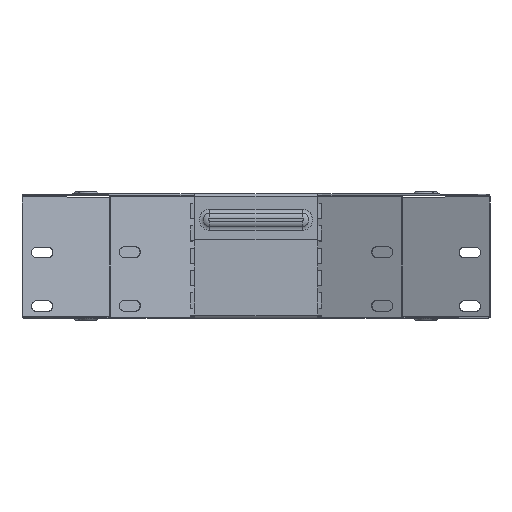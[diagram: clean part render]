
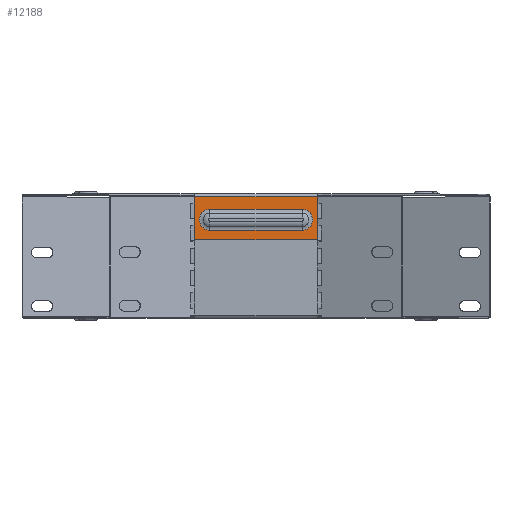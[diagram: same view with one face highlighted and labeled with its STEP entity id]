
A CAD part, top view. The second image highlights one B-rep face of the part: STEP entity #12188.
In plain terms, the highlighted planar face has unit normal (0, 0, 1).
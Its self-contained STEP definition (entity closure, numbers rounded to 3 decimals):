
#211 = LINE ( 'NONE', #14978, #9061 ) ;
#1177 = DIRECTION ( 'NONE',  ( 0., 1., 0. ) ) ;
#1270 = VERTEX_POINT ( 'NONE', #17111 ) ;
#1802 = CARTESIAN_POINT ( 'NONE',  ( 30., 63.9, 1.445 ) ) ;
#1857 = EDGE_CURVE ( 'NONE', #3468, #15231, #14465, .T. ) ;
#2338 = VERTEX_POINT ( 'NONE', #7886 ) ;
#2421 = ORIENTED_EDGE ( 'NONE', *, *, #3071, .F. ) ;
#2833 = VECTOR ( 'NONE', #8932, 1000. ) ;
#3071 = EDGE_CURVE ( 'NONE', #1270, #13548, #11936, .T. ) ;
#3121 = EDGE_LOOP ( 'NONE', ( #4055, #13582, #10454, #5166 ) ) ;
#3213 = EDGE_LOOP ( 'NONE', ( #2421, #16575, #6907, #9829 ) ) ;
#3468 = VERTEX_POINT ( 'NONE', #18614 ) ;
#4055 = ORIENTED_EDGE ( 'NONE', *, *, #6872, .T. ) ;
#4306 = VECTOR ( 'NONE', #16288, 1000. ) ;
#4471 = EDGE_CURVE ( 'NONE', #7742, #2338, #13277, .T. ) ;
#4659 = CARTESIAN_POINT ( 'NONE',  ( -40., 50.8, 1.445 ) ) ;
#4688 = CARTESIAN_POINT ( 'NONE',  ( 40., 50.8, 1.445 ) ) ;
#4806 = CARTESIAN_POINT ( 'NONE',  ( -30., 56.983, 1.445 ) ) ;
#5166 = ORIENTED_EDGE ( 'NONE', *, *, #4471, .T. ) ;
#5333 = VECTOR ( 'NONE', #6530, 1000. ) ;
#5407 = CARTESIAN_POINT ( 'NONE',  ( -30., 63.9, 1.445 ) ) ;
#5510 = AXIS2_PLACEMENT_3D ( 'NONE', #5407, #12642, #1177 ) ;
#5682 = FACE_BOUND ( 'NONE', #3121, .T. ) ;
#5905 = LINE ( 'NONE', #7625, #4306 ) ;
#6079 = DIRECTION ( 'NONE',  ( 0., 1., 0. ) ) ;
#6126 = DIRECTION ( 'NONE',  ( 0., 0., -1. ) ) ;
#6274 = DIRECTION ( 'NONE',  ( -1., 0., 0. ) ) ;
#6276 = VERTEX_POINT ( 'NONE', #4688 ) ;
#6323 = AXIS2_PLACEMENT_3D ( 'NONE', #6993, #13146, #6079 ) ;
#6530 = DIRECTION ( 'NONE',  ( 1., 0., 0. ) ) ;
#6872 = EDGE_CURVE ( 'NONE', #2338, #3468, #9783, .T. ) ;
#6907 = ORIENTED_EDGE ( 'NONE', *, *, #7215, .T. ) ;
#6993 = CARTESIAN_POINT ( 'NONE',  ( 0., 80.8, 1.445 ) ) ;
#7178 = DIRECTION ( 'NONE',  ( 0., 1., 0. ) ) ;
#7184 = LINE ( 'NONE', #4659, #2833 ) ;
#7215 = EDGE_CURVE ( 'NONE', #9246, #6276, #5905, .T. ) ;
#7625 = CARTESIAN_POINT ( 'NONE',  ( 40., 50.8, 1.445 ) ) ;
#7742 = VERTEX_POINT ( 'NONE', #4806 ) ;
#7886 = CARTESIAN_POINT ( 'NONE',  ( -30., 70.817, 1.445 ) ) ;
#8022 = DIRECTION ( 'NONE',  ( 1., 0., 0. ) ) ;
#8932 = DIRECTION ( 'NONE',  ( 0., -1., 0. ) ) ;
#9061 = VECTOR ( 'NONE', #6274, 1000. ) ;
#9246 = VERTEX_POINT ( 'NONE', #14956 ) ;
#9783 = LINE ( 'NONE', #16680, #17201 ) ;
#9829 = ORIENTED_EDGE ( 'NONE', *, *, #14541, .T. ) ;
#10454 = ORIENTED_EDGE ( 'NONE', *, *, #13274, .T. ) ;
#10459 = FACE_OUTER_BOUND ( 'NONE', #3213, .T. ) ;
#10750 = PLANE ( 'NONE',  #6323 ) ;
#11618 = CARTESIAN_POINT ( 'NONE',  ( 40., 80., 1.445 ) ) ;
#11936 = LINE ( 'NONE', #18341, #5333 ) ;
#11969 = DIRECTION ( 'NONE',  ( 0., 1., 0. ) ) ;
#12188 = ADVANCED_FACE ( 'NONE', ( #5682, #10459 ), #10750, .F. ) ;
#12438 = AXIS2_PLACEMENT_3D ( 'NONE', #1802, #6126, #11969 ) ;
#12642 = DIRECTION ( 'NONE',  ( 0., 0., -1. ) ) ;
#13146 = DIRECTION ( 'NONE',  ( 0., 0., -1. ) ) ;
#13274 = EDGE_CURVE ( 'NONE', #15231, #7742, #211, .T. ) ;
#13277 = CIRCLE ( 'NONE', #5510, 6.917 ) ;
#13548 = VERTEX_POINT ( 'NONE', #14100 ) ;
#13582 = ORIENTED_EDGE ( 'NONE', *, *, #1857, .T. ) ;
#14100 = CARTESIAN_POINT ( 'NONE',  ( 40., 79., 1.445 ) ) ;
#14197 = EDGE_CURVE ( 'NONE', #1270, #9246, #7184, .T. ) ;
#14273 = CARTESIAN_POINT ( 'NONE',  ( 30., 56.983, 1.445 ) ) ;
#14465 = CIRCLE ( 'NONE', #12438, 6.917 ) ;
#14541 = EDGE_CURVE ( 'NONE', #6276, #13548, #16546, .T. ) ;
#14759 = VECTOR ( 'NONE', #7178, 1000. ) ;
#14956 = CARTESIAN_POINT ( 'NONE',  ( -40., 50.8, 1.445 ) ) ;
#14978 = CARTESIAN_POINT ( 'NONE',  ( 30., 56.983, 1.445 ) ) ;
#15231 = VERTEX_POINT ( 'NONE', #14273 ) ;
#16288 = DIRECTION ( 'NONE',  ( 1., 0., 0. ) ) ;
#16546 = LINE ( 'NONE', #11618, #14759 ) ;
#16575 = ORIENTED_EDGE ( 'NONE', *, *, #14197, .T. ) ;
#16680 = CARTESIAN_POINT ( 'NONE',  ( 30., 70.817, 1.445 ) ) ;
#17111 = CARTESIAN_POINT ( 'NONE',  ( -40., 79., 1.445 ) ) ;
#17201 = VECTOR ( 'NONE', #8022, 1000. ) ;
#18341 = CARTESIAN_POINT ( 'NONE',  ( 0., 79., 1.445 ) ) ;
#18614 = CARTESIAN_POINT ( 'NONE',  ( 30., 70.817, 1.445 ) ) ;
